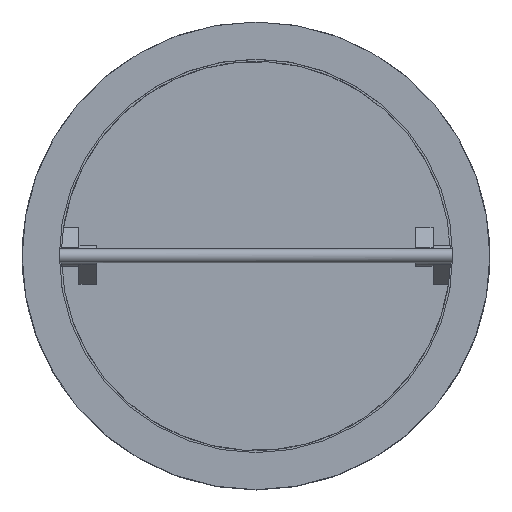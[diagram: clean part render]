
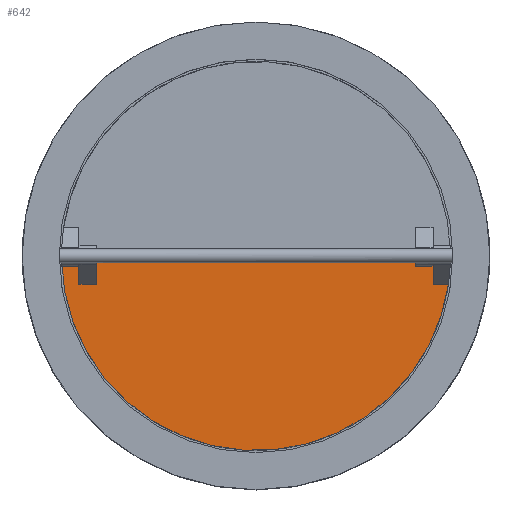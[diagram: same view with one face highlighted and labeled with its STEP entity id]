
A CAD part, top view. The second image highlights one B-rep face of the part: STEP entity #642.
In plain terms, the highlighted planar face has unit normal (0, 0, 1).
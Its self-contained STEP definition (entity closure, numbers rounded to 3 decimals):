
#642=ADVANCED_FACE('',(#1245),#1247,.T.);
#1245=FACE_BOUND('',#1246,.T.);
#1246=EDGE_LOOP('',(#1663,#1664,#1665,#1666,#1667,#1668,#1669,#1670));
#1247=PLANE('',#1248);
#1248=AXIS2_PLACEMENT_3D('',#1249,#1250,#1251);
#1249=CARTESIAN_POINT('',(0.,0.,66.));
#1250=DIRECTION('',(0.,0.,1.));
#1251=DIRECTION('',(0.,1.,0.));
#1663=ORIENTED_EDGE('',*,*,#1910,.F.);
#1664=ORIENTED_EDGE('',*,*,#1911,.F.);
#1665=ORIENTED_EDGE('',*,*,#1858,.T.);
#1666=ORIENTED_EDGE('',*,*,#1868,.T.);
#1667=ORIENTED_EDGE('',*,*,#1912,.F.);
#1668=ORIENTED_EDGE('',*,*,#1913,.F.);
#1669=ORIENTED_EDGE('',*,*,#1862,.T.);
#1670=ORIENTED_EDGE('',*,*,#1914,.F.);
#1858=EDGE_CURVE('',#2155,#2153,#2156,.T.);
#1862=EDGE_CURVE('',#2163,#2161,#2164,.T.);
#1868=EDGE_CURVE('',#2153,#2172,#2174,.T.);
#1910=EDGE_CURVE('',#2241,#2242,#2243,.T.);
#1911=EDGE_CURVE('',#2155,#2241,#2244,.T.);
#1912=EDGE_CURVE('',#2245,#2172,#2246,.T.);
#1913=EDGE_CURVE('',#2163,#2245,#2247,.T.);
#1914=EDGE_CURVE('',#2242,#2161,#2248,.F.);
#2153=VERTEX_POINT('',#3870);
#2155=VERTEX_POINT('',#3874);
#2156=LINE('',#3875,#3876);
#2161=VERTEX_POINT('',#3886);
#2163=VERTEX_POINT('',#3890);
#2164=LINE('',#3891,#3892);
#2172=VERTEX_POINT('',#3941);
#2174=CIRCLE('',#3946,222.5);
#2241=VERTEX_POINT('',#4244);
#2242=VERTEX_POINT('',#4245);
#2243=LINE('',#4246,#4247);
#2244=LINE('',#4249,#4250);
#2245=VERTEX_POINT('',#4252);
#2246=LINE('',#4253,#4254);
#2247=LINE('',#4256,#4257);
#2248=LINE('',#4259,#4260);
#3870=CARTESIAN_POINT('',(-222.464,-4.,66.));
#3874=CARTESIAN_POINT('',(-202.536,-4.,66.));
#3875=CARTESIAN_POINT('',(-202.536,-4.,66.));
#3876=VECTOR('',#3877,1.);
#3877=DIRECTION('',(-1.,0.,0.));
#3886=CARTESIAN_POINT('',(-182.536,-4.,66.));
#3890=CARTESIAN_POINT('',(202.464,-4.,66.));
#3891=CARTESIAN_POINT('',(202.464,-4.,66.));
#3892=VECTOR('',#3893,1.);
#3893=DIRECTION('',(-1.,0.,0.));
#3941=CARTESIAN_POINT('',(220.121,-32.447,66.));
#3946=AXIS2_PLACEMENT_3D('',#3947,#3948,#3949);
#3947=CARTESIAN_POINT('',(0.,0.,66.));
#3948=DIRECTION('',(0.,0.,1.));
#3949=DIRECTION('',(-1.,-0.018,0.));
#4244=CARTESIAN_POINT('',(-202.536,-32.447,66.));
#4245=CARTESIAN_POINT('',(-182.536,-32.447,66.));
#4246=CARTESIAN_POINT('',(-202.536,-32.447,66.));
#4247=VECTOR('',#4248,1.);
#4248=DIRECTION('',(1.,0.,0.));
#4249=CARTESIAN_POINT('',(-202.536,-4.,66.));
#4250=VECTOR('',#4251,1.);
#4251=DIRECTION('',(0.,-1.,0.));
#4252=CARTESIAN_POINT('',(202.464,-32.447,66.));
#4253=CARTESIAN_POINT('',(202.464,-32.447,66.));
#4254=VECTOR('',#4255,1.);
#4255=DIRECTION('',(1.,0.,0.));
#4256=CARTESIAN_POINT('',(202.464,-4.,66.));
#4257=VECTOR('',#4258,1.);
#4258=DIRECTION('',(0.,-1.,0.));
#4259=CARTESIAN_POINT('',(-182.536,-4.,66.));
#4260=VECTOR('',#4261,1.);
#4261=DIRECTION('',(0.,-1.,0.));
